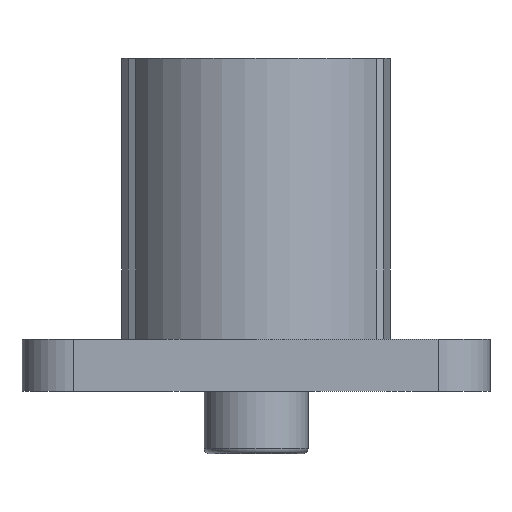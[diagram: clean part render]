
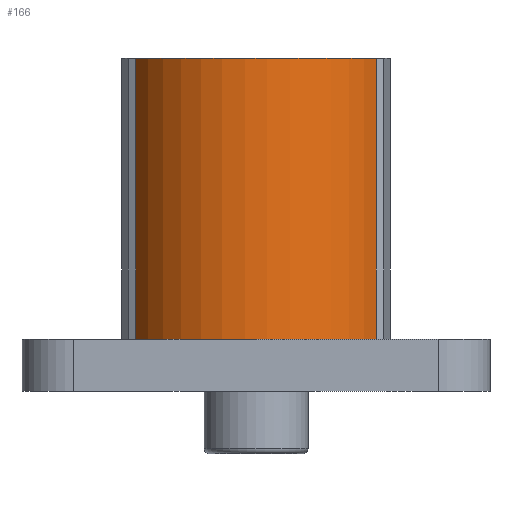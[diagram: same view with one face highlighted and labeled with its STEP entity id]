
A CAD part, left-side view. The second image highlights one B-rep face of the part: STEP entity #166.
In plain terms, the highlighted cylindrical face has radius 13 mm (diameter 26 mm), a partial arc.
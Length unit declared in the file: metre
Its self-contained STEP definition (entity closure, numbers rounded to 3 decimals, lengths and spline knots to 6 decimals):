
#166 = ADVANCED_FACE( '', ( #341 ), #342, .T. );
#341 = FACE_OUTER_BOUND( '', #532, .T. );
#342 = CYLINDRICAL_SURFACE( '', #533, 0.013 );
#532 = EDGE_LOOP( '', ( #947, #948, #949, #950 ) );
#533 = AXIS2_PLACEMENT_3D( '', #951, #952, #953 );
#947 = ORIENTED_EDGE( '', *, *, #1243, .T. );
#948 = ORIENTED_EDGE( '', *, *, #1150, .F. );
#949 = ORIENTED_EDGE( '', *, *, #1214, .F. );
#950 = ORIENTED_EDGE( '', *, *, #1268, .T. );
#951 = CARTESIAN_POINT( '', ( 0., 0., 0.032 ) );
#952 = DIRECTION( '', ( 0., 0., 1. ) );
#953 = DIRECTION( '', ( -1., 0., 0. ) );
#1150 = EDGE_CURVE( '', #1400, #1395, #1402, .T. );
#1214 = EDGE_CURVE( '', #1511, #1400, #1513, .T. );
#1243 = EDGE_CURVE( '', #1556, #1395, #1557, .T. );
#1268 = EDGE_CURVE( '', #1511, #1556, #1593, .T. );
#1395 = VERTEX_POINT( '', #1842 );
#1400 = VERTEX_POINT( '', #1849 );
#1402 = LINE( '', #1852, #1853 );
#1511 = VERTEX_POINT( '', #1996 );
#1513 = CIRCLE( '', #1999, 0.013 );
#1556 = VERTEX_POINT( '', #2052 );
#1557 = CIRCLE( '', #2053, 0.013 );
#1593 = LINE( '', #2104, #2105 );
#1842 = CARTESIAN_POINT( '', ( -0.00595, -0.011558, 0.005 ) );
#1849 = CARTESIAN_POINT( '', ( -0.00595, -0.011558, 0.032 ) );
#1852 = CARTESIAN_POINT( '', ( -0.00595, -0.011558, 0.032 ) );
#1853 = VECTOR( '', #2237, 1. );
#1996 = CARTESIAN_POINT( '', ( -0.00595, 0.011558, 0.032 ) );
#1999 = AXIS2_PLACEMENT_3D( '', #2327, #2328, #2329 );
#2052 = CARTESIAN_POINT( '', ( -0.00595, 0.011558, 0.005 ) );
#2053 = AXIS2_PLACEMENT_3D( '', #2379, #2380, #2381 );
#2104 = CARTESIAN_POINT( '', ( -0.00595, 0.011558, 0.032 ) );
#2105 = VECTOR( '', #2406, 1. );
#2237 = DIRECTION( '', ( 0., 0., -1. ) );
#2327 = CARTESIAN_POINT( '', ( 0., 0., 0.032 ) );
#2328 = DIRECTION( '', ( 0., 0., 1. ) );
#2329 = DIRECTION( '', ( 1., 0., 0. ) );
#2379 = CARTESIAN_POINT( '', ( 0., 0., 0.005 ) );
#2380 = DIRECTION( '', ( 0., 0., 1. ) );
#2381 = DIRECTION( '', ( 1., 0., 0. ) );
#2406 = DIRECTION( '', ( 0., 0., -1. ) );
